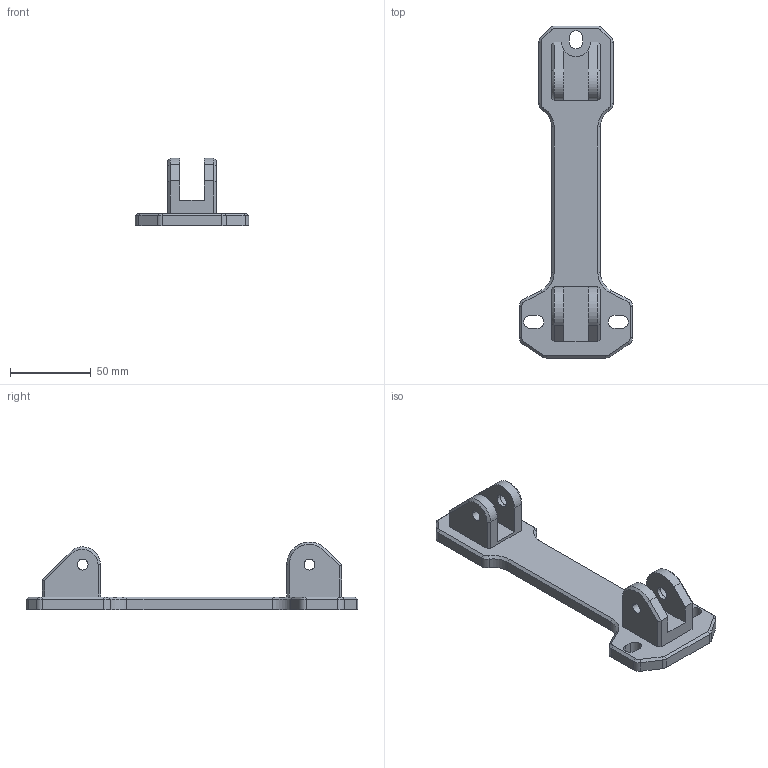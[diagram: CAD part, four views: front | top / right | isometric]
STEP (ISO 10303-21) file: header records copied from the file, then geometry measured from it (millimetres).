
FILE_DESCRIPTION(('CATIA V5 STEP Exchange','CAx-IF Rec.Pracs.--- Model Styling and Organization---1.4--- 2014-01-23','CAx-IF Rec.Pracs.---3D Tessellated Data Validation Properties---0.5---2014-09-14'),'2;1');
FILE_NAME('\\Nas_bts_indus\prod$\RESSOURCES\PROFS\CGM\2022 ressources jour J\Sujet\FAO Usinage Fraisage\Candidat 1 FAO Usinage Fraisage\Embase C1\Embase.stp','2022-07-04T11:20:08+00:00',('none'),('none'),'CATIA Version 5-6 Release 2018 SP6','CATIA V5 STEP AP242','none');
FILE_SCHEMA(('AP242_MANAGED_MODEL_BASED_3D_ENGINEERING_MIM_LF {1 0 10303 442 1 1 4}'));
Length unit declared in the file: millimetre
Products named in the file (1): Embase
Bounding box: 70 x 205 x 41.98 mm (x, y, z)
Volume: 95125.5 mm3; surface area: 29735.6 mm2
Topology: 1 solids, 1 shells, 128 faces, 324 edges, 202 vertices
Faces by surface type: plane 69, cylinder 39, cone 20
Entity records: 3661 total; most frequent: ORIENTED_EDGE 648, CARTESIAN_POINT 647, DIRECTION 534, EDGE_CURVE 324, VECTOR 220, LINE 220, AXIS2_PLACEMENT_3D 207, VERTEX_POINT 202
